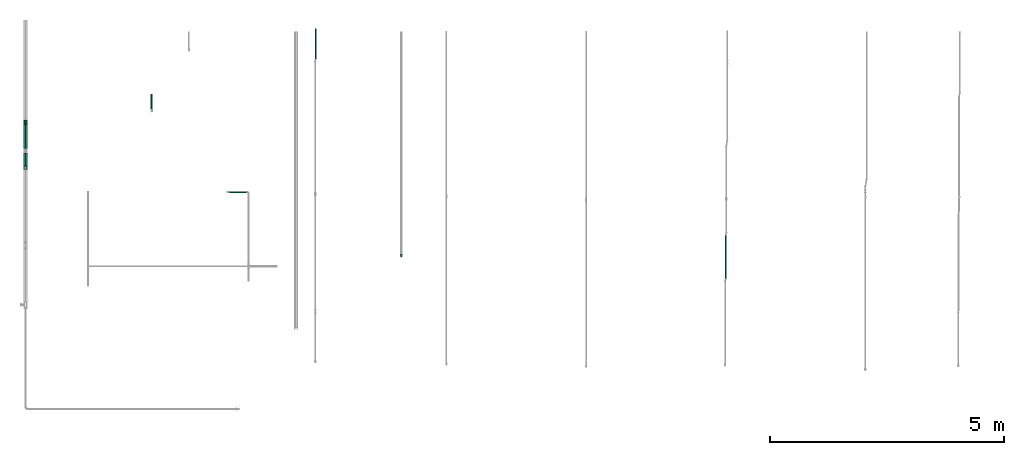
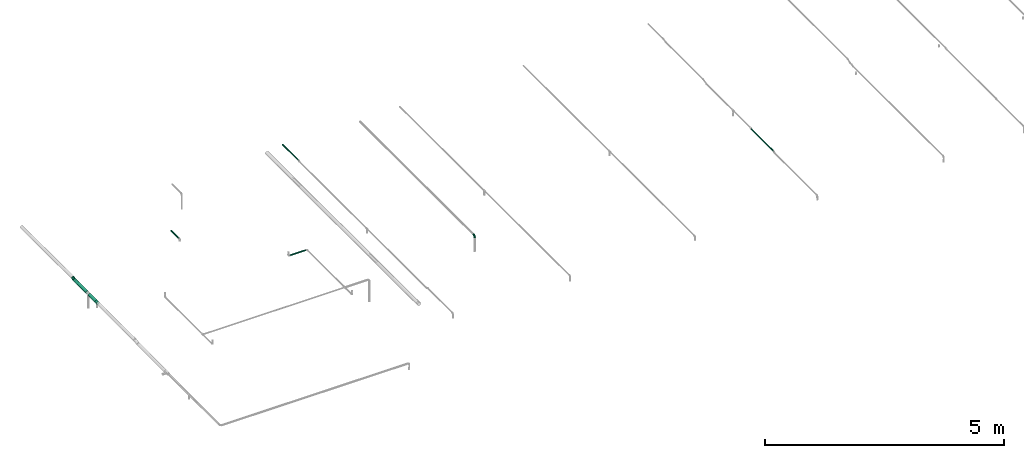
# One storey, part 3 of 32: 7 flow segments, 4 flow fittings.
"""IFC2X3 building model written with IfcOpenShell, lengths in millimetres."""

import ifcopenshell
import ifcopenshell.guid

model = None  # the IFC model being written
_history = None  # IfcOwnerHistory: only IFC2X3 demands one
_inside = {}  # id of a spatial element -> (the spatial element, [elements in it])
_under = {}  # id of a project, library or spatial element -> (it, [spatial elements below it])
_declared = {}  # id of a project -> (the project, [libraries it declares])
_typed = {}  # id of a type object -> (the type object, [elements of that type])
_made_of = {}  # id of a material, layer set ... -> (it, [elements and type objects made of it])


def new_model(schema):
    """Start an empty IFC model of exactly this schema.

    Asked for "IFC4X3", IfcOpenShell would pick the latest addendum, in which some entities
    have other attributes; the version numbers below select the first issue.
    IFC2X3 requires an IfcOwnerHistory on every rooted entity: one is made here for all.
    """
    global model, _history
    if schema == "IFC4X3":
        model = ifcopenshell.file(schema_version=(4, 3, 0, 0))
    else:
        model = ifcopenshell.file(schema=schema)
    _inside.clear()
    _under.clear()
    _declared.clear()
    _typed.clear()
    _made_of.clear()
    _history = None
    if model.schema == "IFC2X3":
        org = make("IfcOrganization", Name="unknown")
        user = make(
            "IfcPersonAndOrganization",
            ThePerson=make("IfcPerson", FamilyName="unknown"),
            TheOrganization=org,
        )
        app = make(
            "IfcApplication",
            ApplicationDeveloper=org,
            Version="unknown",
            ApplicationFullName="unknown",
            ApplicationIdentifier="unknown",
        )
        _history = make(
            "IfcOwnerHistory",
            OwningUser=user,
            OwningApplication=app,
            ChangeAction="ADDED",
            CreationDate=0,
        )
    return model


def make(cls, **values):
    """One entity of the class cls with the attributes given. An attribute that is None is left unset."""
    return model.create_entity(
        cls, **{name: value for name, value in values.items() if value is not None}
    )


def entity(cls, *values):
    """Any entity or typed value of the class cls, its attributes in the order of the schema. None: left unset."""
    e = model.create_entity(cls)
    for i, value in enumerate(values):
        if value is not None:
            e[i] = value
    return e


def rooted(cls, **values):
    """An entity with a GlobalId (a new one), such as an element, a storey or a relation."""
    return make(cls, GlobalId=ifcopenshell.guid.new(), OwnerHistory=_history, **values)


def si_unit(unit_type, name, prefix=None):
    """IfcSIUnit, for example si_unit("LENGTHUNIT", "METRE", prefix="MILLI")."""
    return make("IfcSIUnit", UnitType=unit_type, Prefix=prefix, Name=name)


def converted_unit(unit_type, name, factor, base, dimensions=None, offset=None):
    """IfcConversionBasedUnit, such as the inch: factor (a typed value) times the base unit."""
    return make(
        "IfcConversionBasedUnit"
        if offset is None
        else "IfcConversionBasedUnitWithOffset",
        ConversionOffset=offset,
        Dimensions=None
        if dimensions is None
        else entity("IfcDimensionalExponents", *dimensions),
        UnitType=unit_type,
        Name=name,
        ConversionFactor=make(
            "IfcMeasureWithUnit", ValueComponent=factor, UnitComponent=base
        ),
    )


def derived_unit(unit_type, elements):
    """IfcDerivedUnit: a product of units, each with its exponent."""
    return make(
        "IfcDerivedUnit",
        Elements=[
            make("IfcDerivedUnitElement", Unit=unit, Exponent=power)
            for unit, power in elements
        ],
        UnitType=unit_type,
    )


def assignment(units):
    """IfcUnitAssignment: the units of a project."""
    return None if units is None else make("IfcUnitAssignment", Units=units)


def point(xyz):
    """IfcCartesianPoint."""
    return None if xyz is None else make("IfcCartesianPoint", Coordinates=xyz)


def direction(xyz):
    """IfcDirection."""
    return None if xyz is None else make("IfcDirection", DirectionRatios=xyz)


def frame(location, z_axis=None, x_axis=None):
    """IfcAxis2Placement3D, a coordinate frame: its origin and axes. An axis left out is left unset."""
    return make(
        "IfcAxis2Placement3D",
        Location=point(location),
        Axis=direction(z_axis),
        RefDirection=direction(x_axis),
    )


def frame_2d(location, x_axis=None):
    """IfcAxis2Placement2D, a coordinate frame in the plane: its origin and x axis."""
    return make(
        "IfcAxis2Placement2D", Location=point(location), RefDirection=direction(x_axis)
    )


def origin_with_axes():
    """The frame at (0, 0, 0) with the z axis (0, 0, 1) and the x axis (1, 0, 0) written out."""
    return frame((0.0, 0.0, 0.0), z_axis=(0.0, 0.0, 1.0), x_axis=(1.0, 0.0, 0.0))


def origin_2d_with_axis():
    """The frame at (0, 0) in the plane with the x axis (1, 0) written out."""
    return frame_2d((0.0, 0.0), x_axis=(1.0, 0.0))


def place(relative_to, where):
    """IfcLocalPlacement: puts the frame where relative to a parent placement (None: the world)."""
    return make(
        "IfcLocalPlacement", PlacementRelTo=relative_to, RelativePlacement=where
    )


def context(
    kind, dimensions, precision=None, world=None, true_north=None, identifier=None
):
    """IfcGeometricRepresentationContext, for example the 3D "Model" context."""
    return make(
        "IfcGeometricRepresentationContext",
        ContextIdentifier=identifier,
        ContextType=kind,
        CoordinateSpaceDimension=dimensions,
        Precision=precision,
        WorldCoordinateSystem=world,
        TrueNorth=true_north,
    )


def subcontext(parent, identifier, kind, view, scale=None):
    """IfcGeometricRepresentationSubContext, for example "Body" below "Model"."""
    return make(
        "IfcGeometricRepresentationSubContext",
        ContextIdentifier=identifier,
        ContextType=kind,
        ParentContext=parent,
        TargetScale=scale,
        TargetView=view,
    )


def project(units=None, contexts=None):
    """IfcProject with its units and contexts."""
    return rooted(
        "IfcProject",
        Name="project",
        RepresentationContexts=contexts,
        UnitsInContext=assignment(units),
    )


def spatial(cls, under=None, at=None, **own):
    """A site, building, storey or space (cls), placed at a placement, below another one or the project."""
    s = rooted(cls, ObjectPlacement=at, **own)
    if under is not None:
        _under.setdefault(under.id(), (under, []))[1].append(s)
    return s


def profile(cls, at=None, kind="AREA", **sizes):
    """A parametric profile (cls). Its sizes go by their IFC names, for example OverallWidth=200.0."""
    return make(cls, ProfileType=kind, Position=at, **sizes)


def hollow_circle(**sizes):
    """IfcCircleHollowProfileDef."""
    return profile("IfcCircleHollowProfileDef", **sizes)


def extrude(swept, where, along, depth):
    """IfcExtrudedAreaSolid: the profile swept, set in the frame where, extruded along a direction by depth."""
    return make(
        "IfcExtrudedAreaSolid",
        SweptArea=swept,
        Position=where,
        ExtrudedDirection=direction(along),
        Depth=depth,
    )


def faces_of(points, faces, orient=None, outer=None):
    """IfcFace entities. A face is a list of loops; a loop is a list of indices into points, from 0.

    orient and outer hold one flag for each loop. By default every Orientation is true, the
    first loop of a face is its IfcFaceOuterBound and the others are IfcFaceBound.
    """
    made = []
    for i, loops in enumerate(faces):
        bounds = []
        for j, loop in enumerate(loops):
            is_outer = j == 0 if outer is None else outer[i][j]
            bounds.append(
                make(
                    "IfcFaceOuterBound" if is_outer else "IfcFaceBound",
                    Bound=make("IfcPolyLoop", Polygon=[points[k] for k in loop]),
                    Orientation=True if orient is None else orient[i][j],
                )
            )
        made.append(make("IfcFace", Bounds=bounds))
    return made


def open_shell(faces, orient=None, outer=None):
    """The faces of one IfcOpenShell. surface_model builds it on its shared points."""
    return ("IfcOpenShell", faces, orient, outer)


def surface_model(cls, points, shells):
    """IfcFaceBasedSurfaceModel or IfcShellBasedSurfaceModel (cls): surfaces that need not close."""
    shared = [point(p) for p in points]
    made = [make(c, CfsFaces=faces_of(shared, fs, o, b)) for c, fs, o, b in shells]
    if cls == "IfcFaceBasedSurfaceModel":
        return make(cls, FbsmFaces=made)
    return make(cls, SbsmBoundary=made)


def shape(context_of_items, identifier, shape_type, items):
    """IfcShapeRepresentation: the items that make up one representation, for example the "Body"."""
    return make(
        "IfcShapeRepresentation",
        ContextOfItems=context_of_items,
        RepresentationIdentifier=identifier,
        RepresentationType=shape_type,
        Items=items,
    )


def source(mapping_origin, context_of_items, identifier, shape_type, items):
    """IfcRepresentationMap: a shape defined once, which mapped items show again and again."""
    return make(
        "IfcRepresentationMap",
        MappingOrigin=mapping_origin,
        MappedRepresentation=shape(context_of_items, identifier, shape_type, items),
    )


def transform(
    local_origin,
    x_axis=None,
    y_axis=None,
    z_axis=None,
    scale=None,
    scale2=None,
    scale3=None,
    uniform=True,
):
    """IfcCartesianTransformationOperator3D, or its non-uniform kind. x_axis, y_axis, z_axis: its Axis1, 2, 3."""
    if uniform:
        return make(
            "IfcCartesianTransformationOperator3D",
            Axis1=direction(x_axis),
            Axis2=direction(y_axis),
            LocalOrigin=point(local_origin),
            Scale=scale,
            Axis3=direction(z_axis),
        )
    return make(
        "IfcCartesianTransformationOperator3DnonUniform",
        Axis1=direction(x_axis),
        Axis2=direction(y_axis),
        LocalOrigin=point(local_origin),
        Scale=scale,
        Axis3=direction(z_axis),
        Scale2=scale2,
        Scale3=scale3,
    )


def mapped(mapping_source, mapping_target):
    """IfcMappedItem: shows the shape of a source again, moved by a transform."""
    return make(
        "IfcMappedItem", MappingSource=mapping_source, MappingTarget=mapping_target
    )


def made_of(thing, what):
    """Note that an element or type object is made of a material, layer set ...; save() writes the relation."""
    if what is not None:
        _made_of.setdefault(what.id(), (what, []))[1].append(thing)
    return thing


def type_object(cls, material=None, **own):
    """A type object (cls), such as IfcWallType, which elements share."""
    return made_of(rooted(cls, **own), material)


def element(
    cls,
    number,
    at=None,
    inside=None,
    cuts=None,
    type_object=None,
    material=None,
    context=None,
    identifier="Body",
    shape_type=None,
    held_by="IfcProductDefinitionShape",
    body=None,
    shapes=None,
    **own,
):
    """One element of the class cls, such as IfcWall. Its Tag is "e" and its number.

    at: its placement. inside: the storey or other place that contains it. cuts: it is an
    opening in that element (IfcRelVoidsElement). A single representation is given by context,
    identifier, shape_type and body (its items); several are given by shapes. held_by: the class
    of the entity that holds the representations. save() writes the other relations.
    """
    e = rooted(cls, Tag="e%d" % number, ObjectPlacement=at, **own)
    if body is not None:
        shapes = [shape(context, identifier, shape_type, body)]
    if shapes is not None:
        e.Representation = make(held_by, Representations=shapes)
    if inside is not None:
        _inside.setdefault(inside.id(), (inside, []))[1].append(e)
    if cuts is not None:
        rooted(
            "IfcRelVoidsElement", RelatingBuildingElement=cuts, RelatedOpeningElement=e
        )
    if type_object is not None:
        _typed.setdefault(type_object.id(), (type_object, []))[1].append(e)
    return made_of(e, material)


def aggregate(whole, parts):
    """IfcRelAggregates: a whole, such as a stair, and the parts it consists of."""
    return rooted("IfcRelAggregates", RelatingObject=whole, RelatedObjects=parts)


def save(model, path):
    """Write the relations noted so far, then the file.

    IfcRelAggregates (storeys below a building ...), IfcRelContainedInSpatialStructure (elements
    in a storey), IfcRelDefinesByType, IfcRelAssociatesMaterial and IfcRelDeclares: one each for
    every whole, place, type object, material and project.
    """
    for whole, parts in _under.values():
        aggregate(whole, parts)
    for where, things in _inside.values():
        rooted(
            "IfcRelContainedInSpatialStructure",
            RelatedElements=things,
            RelatingStructure=where,
        )
    for kind, things in _typed.values():
        rooted("IfcRelDefinesByType", RelatedObjects=things, RelatingType=kind)
    for what, things in _made_of.values():
        rooted("IfcRelAssociatesMaterial", RelatedObjects=things, RelatingMaterial=what)
    for by, libraries in _declared.values():
        rooted("IfcRelDeclares", RelatingContext=by, RelatedDefinitions=libraries)
    model.write(path)


model = new_model("IFC2X3")

# Units and contexts
model_context = context("Model", 3, precision=0.01, world=frame((0.0, 4.29681676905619e-09, 0.0)), true_north=direction((4.01073788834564e-13, 1.0)))
plan_context = context("Plan", 3, precision=0.01, world=frame((0.0, 4.29681676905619e-09, 0.0)), true_north=direction((4.01073788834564e-13, 1.0)))
body_context = subcontext(model_context, "Body", "Model", "MODEL_VIEW")
ifc_project = project(units=[converted_unit("PLANEANGLEUNIT", "DEGREE", entity("IfcPositiveLengthMeasure", 0.0174532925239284), si_unit("PLANEANGLEUNIT", "RADIAN"), dimensions=[0, 0, 0, 0, 0, 0, 0]), si_unit("AREAUNIT", "SQUARE_METRE"), si_unit("LENGTHUNIT", "METRE", prefix="MILLI"), si_unit("MASSUNIT", "GRAM", prefix="KILO"), si_unit("POWERUNIT", "WATT"), si_unit("PRESSUREUNIT", "PASCAL", prefix="KILO"), si_unit("FORCEUNIT", "NEWTON", prefix="KILO"), si_unit("ELECTRICVOLTAGEUNIT", "VOLT"), si_unit("ELECTRICCURRENTUNIT", "AMPERE"), si_unit("THERMODYNAMICTEMPERATUREUNIT", "DEGREE_CELSIUS"), si_unit("TIMEUNIT", "SECOND"), si_unit("VOLUMEUNIT", "CUBIC_METRE"), derived_unit("LINEARVELOCITYUNIT", [(si_unit("LENGTHUNIT", "METRE"), 1), (si_unit("TIMEUNIT", "SECOND"), -1)]), derived_unit("VOLUMETRICFLOWRATEUNIT", [(si_unit("VOLUMEUNIT", "CUBIC_METRE"), 1), (si_unit("TIMEUNIT", "SECOND"), -1)]), derived_unit("THERMALTRANSMITTANCEUNIT", [(si_unit("POWERUNIT", "WATT"), 1), (si_unit("THERMODYNAMICTEMPERATUREUNIT", "KELVIN"), -1), (si_unit("AREAUNIT", "SQUARE_METRE"), -1)]), derived_unit("SOUNDPRESSUREUNIT", [(si_unit("PRESSUREUNIT", "PASCAL"), 1)])], contexts=[model_context, plan_context])

# Site, building, storey
site_placement = place(None, frame((0.0, -4.29681676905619e-09, 0.0), z_axis=(0.0, 0.0, 1.0), x_axis=(1.0, 0.0, 0.0)))
site = spatial("IfcSite", under=ifc_project, at=site_placement, CompositionType="ELEMENT")
building_placement = place(site_placement, frame((0.0, 4.29681676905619e-09, 0.0), z_axis=(0.0, 0.0, 1.0), x_axis=(1.0, 0.0, 0.0)))
building = spatial("IfcBuilding", under=site, at=building_placement, Name="mc-building", CompositionType="ELEMENT")
storey_placement = place(building_placement, frame((0.0, 0.0, 205200.0), z_axis=(0.0, 0.0, 1.0), x_axis=(1.0, 0.0, 0.0)))
storey = spatial("IfcBuildingStorey", under=building, at=storey_placement, Name="Nivå D + 1,2 m", CompositionType="ELEMENT", Elevation=205200.0)

# Flow fittings
pipe_fitting_type_1 = type_object("IfcPipeFittingType", Name="magi_pipe_fe_tee_centric_90_001", PredefinedType="JUNCTION")
shared_shape_1 = source(origin_with_axes(), body_context, "Body", "SurfaceModel", [
    surface_model("IfcShellBasedSurfaceModel", [(-33.8, 9.86101, -36.80177), (-33.8, 0.0, -38.1), (-33.8, 36.80177, -9.86101), (-33.8, 19.05, -32.99557), (-33.8, 32.99557, -19.05), (-33.8, 26.94077, -26.94077), (-33.8, -38.1, 0.0), (-33.8, -19.05, -32.99557), (-33.8, -26.94077, -26.94077), (-33.8, -9.86101, -36.80177), (-33.8, -32.99557, -19.05), (-33.8, -36.80177, -9.86101), (-33.8, 38.1, 0.0), (-33.8, 32.99557, 19.05), (-33.8, 36.80177, 9.86101), (-33.8, -36.80177, 9.86101), (-33.8, 19.05, 32.99557), (-33.8, 26.94077, 26.94077), (-33.8, 9.86101, 36.80177), (-33.8, 0.0, 38.1), (-33.8, -26.94077, 26.94077), (-33.8, -32.99557, 19.05), (-33.8, -9.86101, 36.80177), (-33.8, -19.05, 32.99557), (33.8, 0.0, -38.1), (33.8, 9.86101, -36.80177), (33.8, 19.05, -32.99557), (33.8, 26.94077, -26.94077), (33.8, 32.99557, -19.05), (33.8, 36.80177, -9.86101), (33.8, -38.1, 0.0), (33.8, -9.86101, -36.80177), (33.8, -26.94077, -26.94077), (33.8, -19.05, -32.99557), (33.8, -32.99557, -19.05), (33.8, -36.80177, -9.86101), (33.8, 36.80177, 9.86101), (33.8, 32.99557, 19.05), (33.8, 19.05, 32.99557), (33.8, 0.0, 38.1), (33.8, 26.94077, 26.94077), (33.8, 9.86101, 36.80177), (33.8, -26.94077, 26.94077), (33.8, -32.99557, 19.05), (33.8, -36.80177, 9.86101), (33.8, -19.05, 32.99557), (33.8, -9.86101, 36.80177), (33.8, 38.1, 0.0), (33.8, -37.45089, 4.9305), (15.86072, -37.65053, 5.83504), (16.9, -38.1, 0.0), (12.92726, -36.51183, 10.88559), (2.96752, -34.27545, 16.63742), (33.8, -34.89867, 14.4555), (8.48894, -35.18611, 14.61328), (-8.4904, -35.18646, 14.61243), (-33.8, -34.89867, 14.4555), (-15.8612, -37.65073, 5.83372), (-33.8, -37.45089, 4.9305), (-16.9, -38.1, 0.0), (-12.9317, -36.51341, 10.88031), (-2.97221, -34.27585, 16.63658), (-33.8, -37.45089, -4.9305), (-15.8612, -37.65073, -5.83372), (15.86072, -37.65053, -5.83504), (33.8, -37.45089, -4.9305), (-12.9317, -36.51341, -10.88031), (-33.8, -34.89867, -14.4555), (-8.4904, -35.18646, -14.61243), (2.96752, -34.27545, -16.63742), (8.48894, -35.18611, -14.61328), (33.8, -34.89867, -14.4555), (12.92726, -36.51183, -10.88559), (-2.97221, -34.27585, -16.63658), (4.37404, -57.15, -16.32415), (-16.9, -57.15, 0.0), (0.0, -57.15, -16.9), (14.63583, -57.15, -8.45), (8.45, -57.15, -14.63583), (16.32415, -57.15, -4.37404), (11.9501, -57.15, -11.9501), (-11.9501, -57.15, -11.9501), (-8.45, -57.15, -14.63583), (-4.37404, -57.15, -16.32415), (-14.63583, -57.15, -8.45), (-16.32415, -57.15, -4.37404), (16.9, -57.15, 0.0), (8.45, -57.15, 14.63583), (16.32415, -57.15, 4.37404), (14.63583, -57.15, 8.45), (-8.45, -57.15, 14.63583), (11.9501, -57.15, 11.9501), (4.37404, -57.15, 16.32415), (-16.32415, -57.15, 4.37404), (-11.9501, -57.15, 11.9501), (-14.63583, -57.15, 8.45), (0.0, -57.15, 16.9), (-4.37404, -57.15, 16.32415), (-16.3806, -37.87537, 2.91686), (-5.7313, -34.73116, 15.62451), (-0.00235, -34.27565, 16.637), (5.72823, -34.73078, 15.62535), (16.38036, -37.87526, 2.91752), (16.38036, -37.87526, -2.91752), (5.72823, -34.73078, -15.62535), (-0.00235, -34.27565, -16.637), (-5.7313, -34.73116, -15.62451), (-16.3806, -37.87537, -2.91686)], [open_shell([[[0, 1, 2]], [[3, 0, 2]], [[2, 4, 5]], [[3, 2, 5]], [[6, 2, 1]], [[7, 8, 9]], [[8, 1, 9]], [[10, 11, 8]], [[6, 8, 11]], [[8, 6, 1]], [[6, 12, 2]], [[13, 14, 12]], [[15, 13, 6]], [[16, 13, 15]], [[17, 13, 16]], [[18, 16, 19]], [[20, 19, 21]], [[16, 15, 21]], [[22, 19, 23]], [[20, 23, 19]], [[21, 19, 16]], [[12, 6, 13]], [[24, 25, 26]], [[24, 26, 27]], [[27, 28, 29]], [[24, 27, 30]], [[30, 27, 29]], [[31, 32, 33]], [[31, 24, 32]], [[34, 30, 35]], [[30, 34, 32]], [[24, 30, 32]], [[29, 36, 30]], [[36, 37, 30]], [[30, 37, 38]], [[38, 39, 30]], [[38, 37, 40]], [[39, 38, 41]], [[30, 42, 43]], [[44, 30, 43]], [[45, 39, 46]], [[45, 42, 30]], [[30, 39, 45]], [[36, 29, 47]], [[48, 44, 49]], [[50, 30, 48]], [[44, 51, 49]], [[43, 42, 52]], [[50, 48, 49]], [[44, 53, 51]], [[52, 54, 43]], [[42, 20, 52]], [[54, 53, 43]], [[55, 21, 56]], [[57, 58, 59]], [[6, 59, 58]], [[57, 60, 15]], [[55, 61, 21]], [[51, 53, 54]], [[15, 60, 56]], [[21, 61, 20]], [[56, 60, 55]], [[61, 52, 20]], [[57, 15, 58]], [[42, 23, 20]], [[19, 46, 39]], [[22, 45, 46]], [[18, 39, 41]], [[37, 36, 14]], [[17, 38, 40]], [[13, 40, 37]], [[41, 38, 16]], [[12, 36, 47]], [[23, 45, 22]], [[22, 46, 19]], [[18, 19, 39]], [[41, 16, 18]], [[16, 38, 17]], [[13, 17, 40]], [[14, 13, 37]], [[36, 12, 14]], [[45, 23, 42]], [[12, 47, 29]], [[29, 28, 2]], [[59, 62, 63]], [[27, 4, 28]], [[9, 24, 31]], [[0, 26, 25]], [[64, 35, 65]], [[24, 1, 25]], [[31, 33, 7]], [[27, 26, 5]], [[66, 67, 68]], [[4, 2, 28]], [[12, 29, 2]], [[27, 5, 4]], [[3, 26, 0]], [[26, 3, 5]], [[0, 25, 1]], [[9, 1, 24]], [[31, 7, 9]], [[33, 8, 7]], [[32, 34, 69]], [[70, 34, 71]], [[70, 69, 34]], [[35, 72, 71]], [[32, 69, 8]], [[30, 50, 65]], [[64, 72, 35]], [[64, 65, 50]], [[72, 70, 71]], [[73, 68, 10]], [[10, 8, 73]], [[68, 67, 10]], [[73, 8, 69]], [[66, 63, 11]], [[63, 62, 11]], [[62, 59, 6]], [[11, 67, 66]], [[32, 8, 33]], [[74, 75, 76]], [[77, 74, 78]], [[77, 79, 74]], [[77, 78, 80]], [[75, 74, 79]], [[76, 81, 82]], [[82, 83, 76]], [[84, 75, 85]], [[81, 76, 84]], [[75, 84, 76]], [[79, 86, 75]], [[87, 86, 88]], [[87, 88, 89]], [[90, 75, 87]], [[87, 89, 91]], [[90, 87, 92]], [[93, 94, 95]], [[94, 93, 90]], [[90, 96, 97]], [[93, 75, 90]], [[92, 96, 90]], [[87, 75, 86]], [[93, 98, 75]], [[60, 95, 94]], [[93, 95, 57]], [[94, 90, 55]], [[98, 59, 75]], [[57, 95, 60]], [[97, 61, 99]], [[55, 60, 94]], [[96, 52, 100]], [[87, 101, 92]], [[99, 90, 97]], [[99, 55, 90]], [[93, 57, 98]], [[92, 52, 96]], [[49, 89, 88]], [[102, 86, 50]], [[102, 49, 88]], [[91, 89, 51]], [[96, 61, 97]], [[101, 52, 92]], [[87, 54, 101]], [[87, 91, 54]], [[54, 91, 51]], [[51, 89, 49]], [[86, 102, 88]], [[100, 61, 96]], [[79, 103, 86]], [[72, 77, 80]], [[79, 77, 64]], [[80, 78, 70]], [[103, 50, 86]], [[64, 77, 72]], [[74, 69, 104]], [[70, 72, 80]], [[76, 73, 105]], [[82, 106, 83]], [[107, 75, 59]], [[104, 78, 74]], [[104, 70, 78]], [[68, 82, 81]], [[79, 64, 103]], [[63, 84, 85]], [[107, 63, 85]], [[84, 66, 81]], [[76, 69, 74]], [[83, 106, 73]], [[73, 76, 83]], [[68, 106, 82]], [[68, 81, 66]], [[66, 84, 63]], [[75, 107, 85]], [[105, 69, 76]]])]),
])
flow_fitting_1_placement = place(storey_placement, frame((323497.5, 464582.26745, 4367.43145999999), z_axis=(1.0, 0.0, 0.0), x_axis=(0.0, 1.0, 0.0)))
element("IfcFlowFitting", 1, at=flow_fitting_1_placement, inside=storey, type_object=pipe_fitting_type_1, Name="magi_pipe_fe_tee_centric_90_001", context=body_context, shape_type="MappedRepresentation", body=[
    mapped(shared_shape_1, transform((0.0, 0.0, 0.0), scale=1.0)),
])
pipe_fitting_type_2 = type_object("IfcPipeFittingType", Name="magi_pipe_fe_elbow_short_001", PredefinedType="BEND")
shared_shape_2 = source(origin_with_axes(), body_context, "Body", "SurfaceModel", [
    surface_model("IfcShellBasedSurfaceModel", [(-48.4, 6.26342, -23.37541), (-48.4, 0.0, -24.2), (-48.4, 17.11198, -17.11198), (-48.4, 12.1, -20.95781), (-48.4, 23.37541, -6.26342), (-48.4, 20.95781, -12.1), (-48.4, -12.1, -20.95781), (-48.4, -17.11198, -17.11198), (-48.4, -20.95781, -12.1), (-48.4, -6.26342, -23.37541), (-48.4, -23.37541, -6.26342), (-48.4, -24.2, 0.0), (-48.4, -23.37541, 6.26342), (-48.4, 23.37541, 6.26342), (-48.4, 6.26342, 23.37541), (-48.4, 20.95781, 12.1), (-48.4, 17.11198, 17.11198), (-48.4, 12.1, 20.95781), (-48.4, -12.1, 20.95781), (-48.4, -20.95781, 12.1), (-48.4, -17.11198, 17.11198), (-48.4, -6.26342, 23.37541), (-48.4, 0.0, 24.2), (-48.4, 24.2, 0.0), (-17.11198, 48.4, -17.11198), (0.0, 48.4, -24.2), (-6.26342, 48.4, -23.37541), (-12.1, 48.4, -20.95781), (-20.95781, 48.4, -12.1), (-23.37541, 48.4, -6.26342), (12.1, 48.4, -20.95781), (20.95781, 48.4, -12.1), (17.11198, 48.4, -17.11198), (6.26342, 48.4, -23.37541), (23.37541, 48.4, -6.26342), (23.37541, 48.4, 6.26342), (24.2, 48.4, 0.0), (-23.37541, 48.4, 6.26342), (-6.26342, 48.4, 23.37541), (-17.11198, 48.4, 17.11198), (-20.95781, 48.4, 12.1), (-12.1, 48.4, 20.95781), (12.1, 48.4, 20.95781), (17.11198, 48.4, 17.11198), (20.95781, 48.4, 12.1), (0.0, 48.4, 24.2), (6.26342, 48.4, 23.37541), (-24.2, 48.4, 0.0), (-35.50368, -18.80076, 13.58523), (-31.77913, -13.9618, 18.03279), (-34.50859, -21.43683, 0.0), (-21.39243, -15.41147, 12.21413), (-32.16301, -21.12203, 7.54749), (21.12203, 32.16301, 7.54749), (17.07617, 18.95745, 6.20374), (18.67365, 20.61718, 0.0), (-23.65565, 38.62451, 10.51816), (-20.21592, 37.67665, 15.89859), (-35.56981, -9.15108, 21.77256), (-36.96985, -3.20584, 23.78612), (-33.88786, 3.70953, 24.15875), (-8.84062, -10.8048, 0.0), (-18.95745, -17.07617, 6.20374), (-20.61718, -18.67365, 0.0), (-18.69715, -5.87343, 20.10488), (-24.09336, -0.21717, 23.45593), (-2.08262, -4.09091, 10.90396), (-0.40561, 0.49936, 14.45569), (-8.22634, -5.79523, 14.90978), (-37.83027, 20.17367, 15.88169), (-8.41063, 23.79825, 24.15658), (-17.92529, 17.92529, 23.61199), (-14.40991, 10.5752, 24.07534), (-41.86919, 14.6551, 19.71874), (-9.03342, 41.7434, 22.66763), (-3.31671, 36.19978, 24.14056), (-38.63654, 23.65174, 10.51655), (-38.25939, 25.77657, 5.32075), (-30.0475, 30.0475, 9.04616), (-37.30448, 9.49113, 22.86036), (-6.31688, 16.20853, 23.76192), (-12.02449, 4.43954, 22.59792), (-2.47225, 13.07459, 22.23951), (-4.32281, 4.32281, 19.78555), (13.9618, 31.77913, 18.03279), (15.41147, 21.39243, 12.21413), (18.80076, 35.50367, 13.58523), (-25.72741, 16.42033, 22.38358), (-26.59277, 10.36599, 23.76692), (3.20584, 36.96985, 23.78612), (9.15107, 35.56981, 21.77256), (5.87343, 18.69715, 20.10488), (21.43683, 34.50859, 0.0), (-23.74657, 5.93004, 24.18967), (-22.40302, 25.55556, 19.88516), (-33.3245, 16.42738, 20.3789), (-25.47357, 39.04012, 5.19167), (-30.32947, 31.74105, 4.25904), (11.04589, 19.60124, 16.55181), (-27.44219, 36.3, 0.0), (-10.46605, 32.79159, 23.04712), (-13.80953, 25.05111, 23.26361), (-17.54489, 31.27863, 20.33941), (-19.27982, 23.42922, 22.01925), (-14.78447, 40.57947, 19.81913), (-19.60124, -11.04589, 16.55181), (-25.09785, 32.07921, 13.69695), (-25.5093, 27.02629, 17.14196), (-31.08127, 26.00324, 13.49448), (0.21717, 24.09336, 23.45593), (5.51075, 8.40547, 15.32867), (-11.48597, -10.80284, 11.35932), (1.43689, -3.14326, 6.54995), (7.34882, 4.31024, 8.4514), (7.50574, 2.51208, 3.62663), (12.46453, 10.09451, 5.71609), (12.1504, 12.55391, 10.15678), (-36.3, 27.44219, 0.0), (-6.52237, -9.62364, 7.02633), (2.93595, -2.93595, 0.0), (10.8048, 8.84062, 0.0), (-19.60124, -11.04589, -16.55181), (-31.77913, -13.9618, -18.03279), (-18.69715, -5.87343, -20.10488), (-21.39243, -15.41147, -12.21413), (-37.67665, 20.21591, -15.89859), (-40.57947, 14.78447, -19.81913), (-39.04012, 25.47357, -5.19167), (-32.16301, -21.12203, -7.54749), (-30.0475, 30.0475, -9.04616), (-38.62452, 23.65565, -10.51816), (-18.95745, -17.07617, -6.20374), (-23.42922, 19.27982, -22.01926), (-25.05111, 13.80953, -23.26361), (-31.27863, 17.54489, -20.33941), (-14.6551, 41.86919, -19.71874), (-20.17367, 37.83026, -15.88169), (9.15108, 35.56981, -21.77256), (5.87343, 18.69715, -20.10488), (0.21717, 24.09336, -23.45593), (-41.7434, 9.03342, -22.66763), (-35.50368, -18.80076, -13.58523), (-35.56981, -9.15108, -21.77256), (-16.42033, 25.72741, -22.38358), (-9.49113, 37.30447, -22.86036), (-10.36599, 26.59277, -23.76692), (-36.96985, -3.20584, -23.78612), (-23.79826, 8.41063, -24.15658), (-17.92529, 17.92529, -23.61199), (-10.5752, 14.40991, -24.07534), (-36.19978, 3.31671, -24.14056), (-25.77657, 38.25939, -5.32075), (-23.65174, 38.63654, -10.51655), (-32.79159, 10.46605, -23.04712), (-31.74105, 30.32946, -4.25904), (-5.93004, 23.74657, -24.18967), (-25.55556, 22.40302, -19.88516), (-16.42738, 33.3245, -20.3789), (3.20584, 36.96985, -23.78612), (-3.70953, 33.88785, -24.15875), (18.80076, 35.50367, -13.58523), (13.9618, 31.77913, -18.03279), (7.50574, 2.51208, -3.62663), (12.46453, 10.09451, -5.71609), (-16.20853, 6.31688, -23.76192), (-4.43954, 12.02449, -22.59792), (-13.07459, 2.47225, -22.23951), (1.43689, -3.14326, -6.54995), (-6.52237, -9.62364, -7.02632), (-2.08262, -4.09091, -10.90396), (15.41147, 21.39243, -12.21413), (21.12203, 32.16301, -7.54749), (17.07617, 18.95745, -6.20374), (-32.07921, 25.09785, -13.69695), (11.04589, 19.60124, -16.55181), (12.1504, 12.55391, -10.15678), (5.51075, 8.40547, -15.32867), (-27.02629, 25.5093, -17.14196), (-26.00324, 31.08127, -13.49448), (-24.09336, -0.21717, -23.45593), (-4.32281, 4.32281, -19.78555), (-8.22634, -5.79524, -14.90978), (-11.48597, -10.80284, -11.35931), (-0.40561, 0.49936, -14.45569), (7.34882, 4.31024, -8.4514)], [open_shell([[[0, 1, 2]], [[3, 0, 2]], [[4, 5, 2]], [[6, 2, 1]], [[4, 2, 6]], [[7, 8, 6]], [[1, 9, 6]], [[8, 10, 6]], [[6, 10, 4]], [[11, 12, 10]], [[13, 4, 10]], [[14, 13, 10]], [[15, 13, 16]], [[13, 14, 17]], [[16, 13, 17]], [[10, 18, 14]], [[19, 20, 12]], [[20, 10, 12]], [[21, 22, 18]], [[20, 18, 10]], [[18, 22, 14]], [[23, 4, 13]], [[24, 25, 26]], [[24, 26, 27]], [[24, 28, 29]], [[25, 24, 30]], [[30, 24, 29]], [[30, 31, 32]], [[30, 33, 25]], [[30, 34, 31]], [[29, 34, 30]], [[34, 35, 36]], [[34, 29, 37]], [[34, 37, 38]], [[39, 37, 40]], [[41, 38, 37]], [[41, 37, 39]], [[38, 42, 34]], [[35, 43, 44]], [[35, 34, 43]], [[42, 45, 46]], [[34, 42, 43]], [[38, 45, 42]], [[37, 29, 47]], [[20, 48, 49]], [[12, 11, 50]], [[51, 48, 52]], [[53, 54, 55]], [[48, 20, 19]], [[12, 52, 19]], [[40, 56, 57]], [[49, 18, 20]], [[49, 58, 18]], [[22, 59, 60]], [[61, 62, 63]], [[58, 64, 65]], [[66, 67, 68]], [[15, 16, 69]], [[70, 71, 72]], [[17, 73, 16]], [[21, 59, 22]], [[38, 74, 75]], [[22, 60, 14]], [[15, 69, 76]], [[16, 73, 69]], [[23, 13, 77]], [[13, 15, 76]], [[77, 76, 78]], [[14, 79, 17]], [[80, 81, 82]], [[68, 83, 64]], [[84, 43, 42]], [[85, 86, 84]], [[87, 79, 88]], [[18, 58, 21]], [[45, 89, 46]], [[53, 35, 44]], [[45, 38, 75]], [[84, 90, 91]], [[44, 86, 53]], [[92, 35, 53]], [[86, 44, 43]], [[90, 42, 46]], [[53, 55, 92]], [[88, 93, 72]], [[54, 53, 85]], [[87, 94, 95]], [[78, 96, 97]], [[98, 84, 91]], [[99, 96, 47]], [[79, 14, 60]], [[96, 78, 56]], [[62, 52, 63]], [[57, 39, 40]], [[100, 70, 75]], [[101, 102, 103]], [[12, 50, 52]], [[104, 41, 39]], [[74, 38, 41]], [[57, 102, 104]], [[105, 64, 49]], [[90, 84, 42]], [[40, 37, 56]], [[56, 106, 57]], [[102, 57, 107]], [[95, 107, 69]], [[76, 108, 78]], [[100, 101, 70]], [[89, 75, 109]], [[64, 58, 49]], [[63, 52, 50]], [[59, 58, 65]], [[105, 49, 51]], [[64, 83, 81]], [[89, 90, 46]], [[36, 35, 92]], [[109, 82, 91]], [[109, 91, 90]], [[91, 83, 110]], [[111, 68, 105]], [[66, 68, 111]], [[62, 51, 52]], [[66, 112, 113]], [[114, 115, 113]], [[98, 85, 84]], [[52, 48, 19]], [[49, 48, 51]], [[84, 86, 43]], [[53, 86, 85]], [[88, 79, 60]], [[73, 79, 95]], [[96, 56, 37]], [[78, 108, 106]], [[87, 103, 94]], [[100, 74, 104]], [[108, 69, 107]], [[78, 97, 77]], [[88, 72, 71]], [[109, 75, 70]], [[81, 72, 65]], [[70, 72, 80]], [[75, 89, 45]], [[90, 89, 109]], [[58, 59, 21]], [[60, 59, 65]], [[67, 83, 68]], [[110, 113, 116]], [[88, 60, 93]], [[87, 88, 71]], [[103, 87, 71]], [[79, 87, 95]], [[101, 103, 71]], [[94, 103, 102]], [[47, 96, 37]], [[96, 99, 97]], [[99, 117, 97]], [[97, 117, 77]], [[23, 77, 117]], [[13, 76, 77]], [[60, 65, 93]], [[65, 72, 93]], [[70, 101, 71]], [[102, 101, 100]], [[69, 108, 76]], [[106, 108, 107]], [[57, 106, 107]], [[78, 106, 56]], [[57, 104, 39]], [[100, 104, 102]], [[102, 107, 94]], [[95, 94, 107]], [[64, 81, 65]], [[82, 81, 83]], [[91, 82, 83]], [[80, 82, 109]], [[70, 80, 109]], [[81, 80, 72]], [[79, 73, 17]], [[69, 73, 95]], [[104, 74, 41]], [[75, 74, 100]], [[62, 61, 118]], [[111, 62, 118]], [[113, 115, 116]], [[119, 118, 61]], [[111, 105, 51]], [[113, 112, 114]], [[120, 55, 54]], [[68, 64, 105]], [[91, 110, 98]], [[116, 98, 110]], [[62, 111, 51]], [[66, 111, 118]], [[112, 66, 118]], [[67, 113, 110]], [[118, 119, 112]], [[114, 112, 119]], [[119, 120, 114]], [[115, 120, 54]], [[120, 115, 114]], [[116, 54, 85]], [[54, 116, 115]], [[116, 85, 98]], [[113, 67, 66]], [[83, 67, 110]], [[121, 122, 123]], [[122, 121, 124]], [[5, 125, 2]], [[2, 126, 3]], [[117, 127, 23]], [[50, 10, 128]], [[127, 129, 130]], [[128, 131, 63]], [[132, 133, 134]], [[24, 135, 136]], [[137, 138, 139]], [[3, 140, 0]], [[128, 8, 141]], [[142, 6, 9]], [[128, 63, 50]], [[5, 4, 130]], [[8, 7, 141]], [[143, 144, 145]], [[146, 9, 1]], [[147, 148, 149]], [[8, 128, 10]], [[124, 141, 122]], [[150, 1, 0]], [[151, 152, 129]], [[125, 134, 126]], [[153, 147, 150]], [[127, 154, 129]], [[145, 155, 149]], [[47, 29, 151]], [[143, 156, 157]], [[152, 29, 28]], [[25, 158, 159]], [[122, 7, 6]], [[24, 27, 135]], [[144, 27, 26]], [[32, 160, 161]], [[25, 33, 158]], [[120, 162, 163]], [[130, 125, 5]], [[24, 136, 28]], [[0, 140, 150]], [[30, 161, 137]], [[142, 122, 6]], [[25, 159, 26]], [[164, 165, 166]], [[167, 168, 169]], [[31, 160, 32]], [[161, 30, 32]], [[170, 160, 171]], [[131, 128, 124]], [[36, 92, 34]], [[34, 92, 171]], [[172, 171, 55]], [[34, 171, 31]], [[144, 26, 159]], [[130, 173, 125]], [[174, 175, 176]], [[136, 152, 28]], [[30, 137, 33]], [[122, 142, 123]], [[134, 125, 177]], [[157, 177, 136]], [[152, 178, 129]], [[153, 133, 147]], [[146, 150, 179]], [[146, 142, 9]], [[11, 10, 50]], [[179, 166, 123]], [[179, 123, 142]], [[123, 180, 181]], [[138, 137, 161]], [[55, 171, 92]], [[158, 137, 139]], [[174, 161, 170]], [[138, 180, 165]], [[180, 138, 176]], [[124, 121, 182]], [[176, 183, 180]], [[61, 131, 168]], [[169, 168, 182]], [[172, 170, 171]], [[122, 141, 7]], [[128, 141, 124]], [[171, 160, 31]], [[161, 160, 170]], [[145, 144, 159]], [[135, 144, 157]], [[127, 130, 4]], [[129, 178, 173]], [[143, 132, 156]], [[153, 140, 126]], [[178, 136, 177]], [[129, 154, 151]], [[145, 149, 148]], [[179, 150, 147]], [[165, 149, 139]], [[147, 149, 164]], [[150, 146, 1]], [[142, 146, 179]], [[137, 158, 33]], [[159, 158, 139]], [[174, 138, 161]], [[184, 169, 183]], [[145, 159, 155]], [[143, 145, 148]], [[132, 143, 148]], [[144, 143, 157]], [[133, 132, 148]], [[156, 132, 134]], [[23, 127, 4]], [[127, 117, 154]], [[117, 99, 154]], [[154, 99, 151]], [[47, 151, 99]], [[29, 152, 151]], [[159, 139, 155]], [[139, 149, 155]], [[147, 133, 148]], [[134, 133, 153]], [[136, 178, 152]], [[173, 178, 177]], [[125, 173, 177]], [[129, 173, 130]], [[125, 126, 2]], [[153, 126, 134]], [[134, 177, 156]], [[157, 156, 177]], [[138, 165, 139]], [[166, 165, 180]], [[123, 166, 180]], [[164, 166, 179]], [[147, 164, 179]], [[165, 164, 149]], [[144, 135, 27]], [[136, 135, 157]], [[126, 140, 3]], [[150, 140, 153]], [[182, 131, 124]], [[168, 119, 61]], [[119, 167, 162]], [[63, 131, 61]], [[172, 163, 175]], [[172, 55, 120]], [[123, 181, 121]], [[182, 121, 181]], [[175, 174, 170]], [[176, 138, 174]], [[169, 182, 181]], [[131, 182, 168]], [[183, 169, 181]], [[167, 169, 184]], [[162, 167, 184]], [[119, 168, 167]], [[163, 162, 184]], [[120, 119, 162]], [[175, 163, 184]], [[120, 163, 172]], [[176, 175, 184]], [[172, 175, 170]], [[180, 183, 181]], [[184, 183, 176]]])]),
])
flow_fitting_2_placement = place(storey_placement, frame((331536.30913, 462693.6706, 4407.43145999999), z_axis=(-1.0, 0.0, 0.0), x_axis=(0.0, 0.0, 1.0)))
element("IfcFlowFitting", 2, at=flow_fitting_2_placement, inside=storey, type_object=pipe_fitting_type_2, Name="magi_pipe_fe_elbow_short_001", context=body_context, shape_type="MappedRepresentation", body=[
    mapped(shared_shape_2, transform((0.0, 0.0, 0.0), scale=1.0)),
])
shared_shape_3 = source(origin_with_axes(), body_context, "Body", "SurfaceModel", [
    surface_model("IfcShellBasedSurfaceModel", [(-10.03192, 19.05, -32.99557), (-10.03192, 9.86101, -36.80177), (-10.03192, 0.0, -38.1), (-10.03192, 26.94077, -26.94077), (-10.03192, 36.80177, -9.86101), (-10.03192, 32.99557, -19.05), (-10.03192, -36.80177, 9.86101), (-10.03192, -9.86101, -36.80177), (-10.03192, -26.94077, -26.94077), (-10.03192, -32.99557, -19.05), (-10.03192, -19.05, -32.99557), (-10.03192, -36.80177, -9.86101), (-10.03192, -38.1, 0.0), (-10.03192, 36.80177, 9.86101), (-10.03192, 26.94077, 26.94077), (-10.03192, 32.99557, 19.05), (-10.03192, 9.86101, 36.80177), (-10.03192, 19.05, 32.99557), (-10.03192, -19.05, 32.99557), (-10.03192, 0.0, 38.1), (-10.03192, -32.99557, 19.05), (-10.03192, -26.94077, 26.94077), (-10.03192, -9.86101, 36.80177), (-10.03192, 38.1, 0.0), (9.69009, 2.59645, -38.1), (7.13788, 12.12145, -36.80177), (4.75959, 20.99734, -32.99557), (1.15021, 34.46772, -19.05), (12.24231, -6.92855, -36.80177), (2.71731, 28.61924, -26.94077), (19.21509, -32.95133, 9.86101), (19.5511, -34.20532, 0.0), (14.62059, -15.80443, -32.99557), (18.22997, -29.27482, -19.05), (16.66288, -23.42633, -26.94077), (19.21509, -32.95133, -9.86101), (0.16509, 38.14424, -9.86101), (0.16509, 38.14424, 9.86101), (2.71731, 28.61924, 26.94077), (1.15021, 34.46772, 19.05), (4.75959, 20.99734, 32.99557), (7.13788, 12.12145, 36.80177), (18.22997, -29.27482, 19.05), (14.62059, -15.80443, 32.99557), (16.66288, -23.42633, 26.94077), (9.69009, 2.59645, 38.1), (12.24231, -6.92855, 36.80177), (-0.17091, 39.39823, 0.0), (-5.05887, 38.42595, 0.0), (4.88722, -37.12215, 0.0)], [open_shell([[[0, 1, 2]], [[3, 0, 2]], [[4, 5, 3]], [[6, 3, 2]], [[6, 2, 7]], [[8, 9, 10]], [[10, 9, 6]], [[11, 12, 9]], [[9, 12, 6]], [[10, 6, 7]], [[3, 6, 4]], [[13, 4, 14]], [[15, 13, 14]], [[16, 17, 14]], [[18, 14, 4]], [[16, 14, 19]], [[20, 21, 6]], [[6, 21, 4]], [[22, 19, 18]], [[18, 4, 21]], [[14, 18, 19]], [[23, 4, 13]], [[24, 25, 26]], [[24, 26, 27]], [[24, 27, 28]], [[27, 26, 29]], [[30, 31, 27]], [[32, 33, 34]], [[31, 32, 28]], [[33, 31, 35]], [[31, 33, 32]], [[28, 27, 31]], [[27, 36, 37]], [[27, 37, 38]], [[38, 37, 39]], [[38, 40, 41]], [[38, 30, 27]], [[30, 38, 41]], [[42, 43, 44]], [[43, 42, 30]], [[43, 45, 46]], [[45, 43, 30]], [[30, 41, 45]], [[36, 47, 37]], [[20, 44, 21]], [[43, 18, 21]], [[46, 22, 18]], [[45, 19, 22]], [[16, 19, 41]], [[42, 20, 6]], [[15, 14, 39]], [[17, 38, 14]], [[48, 13, 37]], [[48, 23, 13]], [[37, 13, 15]], [[40, 17, 16]], [[6, 12, 49]], [[43, 46, 18]], [[21, 44, 43]], [[46, 45, 22]], [[42, 6, 30]], [[20, 42, 44]], [[49, 31, 30]], [[39, 37, 15]], [[47, 48, 37]], [[40, 16, 41]], [[17, 40, 38]], [[39, 14, 38]], [[41, 19, 45]], [[6, 49, 30]], [[2, 28, 7]], [[1, 24, 2]], [[5, 27, 3]], [[3, 26, 0]], [[1, 0, 26]], [[5, 4, 36]], [[49, 12, 11]], [[35, 49, 11]], [[34, 8, 10]], [[11, 9, 35]], [[8, 33, 9]], [[32, 10, 7]], [[4, 23, 48]], [[48, 47, 36]], [[36, 27, 5]], [[26, 3, 29]], [[25, 1, 26]], [[3, 27, 29]], [[25, 24, 1]], [[32, 7, 28]], [[34, 10, 32]], [[9, 33, 35]], [[35, 31, 49]], [[33, 8, 34]], [[24, 28, 2]], [[4, 48, 36]]])]),
])
for number, where, z_axis, x_axis, name in (
    (3, (323497.5, 465528.6507, 4367.43145999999), (1.0, 0.0, 0.0), (0.0, 1.0, 0.0), "magi_pipe_fe_elbow_short_001"),
    (4, (323497.5, 465584.63146, 4382.43145999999), (1.0, 0.0, 0.0), (0.0, -1.0, 0.0), "magi_pipe_fe_elbow_short_001"),
):
    element("IfcFlowFitting", number, at=place(storey_placement, frame(where, z_axis=z_axis, x_axis=x_axis)), inside=storey, type_object=pipe_fitting_type_2, Name=name, context=body_context, shape_type="MappedRepresentation", body=[
        mapped(shared_shape_3, transform((0.0, 0.0, 0.0), scale=1.0)),
    ])

# Flow segments
pipe_segment_type = type_object("IfcPipeSegmentType", Name="Stålrør normaltykke", PredefinedType="RIGIDSEGMENT")
shared_shape_4 = source(origin_with_axes(), body_context, "Body", "SweptSolid", [
    extrude(hollow_circle(Radius=16.9, WallThickness=2.0, at=origin_2d_with_axis()), frame((0.0, 0.0, 0.0), z_axis=(1.0, 0.0, 0.0), x_axis=(0.0, 1.0, 0.0)), (0.0, 0.0, 1.0), 922.7),
])
flow_segment_1_placement = place(storey_placement, frame((338482.5, 463135.67007, 4424.13733999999), z_axis=(0.0, 0.0, 1.0), x_axis=(0.0, -1.0, 0.0)))
element("IfcFlowSegment", 5, at=flow_segment_1_placement, inside=storey, type_object=pipe_segment_type, Name="Stålrør normaltykke", context=body_context, shape_type="MappedRepresentation", body=[
    mapped(shared_shape_4, transform((0.0, 0.0, 0.0), scale=1.0)),
])
shared_shape_5 = source(origin_with_axes(), body_context, "Body", "SweptSolid", [
    extrude(hollow_circle(Radius=38.0, WallThickness=2.0, at=origin_2d_with_axis()), frame((0.0, 0.0, 0.0), z_axis=(1.0, 0.0, 0.0), x_axis=(0.0, 1.0, 0.0)), (0.0, 0.0, 1.0), 284.8),
])
flow_segment_2_placement = place(storey_placement, frame((323497.5, 464900.89062, 4367.43145999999), z_axis=(0.0, 0.0, 1.0), x_axis=(0.0, -1.0, 0.0)))
element("IfcFlowSegment", 6, at=flow_segment_2_placement, inside=storey, type_object=pipe_segment_type, Name="Stålrør normaltykke", context=body_context, shape_type="MappedRepresentation", body=[
    mapped(shared_shape_5, transform((0.0, 0.0, 0.0), scale=1.0)),
])
shared_shape_6 = source(origin_with_axes(), body_context, "Body", "SweptSolid", [
    extrude(hollow_circle(Radius=16.9, WallThickness=2.0, at=origin_2d_with_axis()), frame((0.0, 0.0, 0.0), z_axis=(1.0, 0.0, 0.0), x_axis=(0.0, 1.0, 0.0)), (0.0, 0.0, 1.0), 662.2),
])
flow_segment_3_placement = place(storey_placement, frame((329705.0, 466903.83049, 4419.99012999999), z_axis=(0.0, 0.0, 1.0), x_axis=(0.0, 1.0, 0.0)))
element("IfcFlowSegment", 7, at=flow_segment_3_placement, inside=storey, type_object=pipe_segment_type, Name="Stålrør normaltykke", context=body_context, shape_type="MappedRepresentation", body=[
    mapped(shared_shape_6, transform((0.0, 0.0, 0.0), scale=1.0)),
])
shared_shape_7 = source(origin_with_axes(), body_context, "Body", "SweptSolid", [
    extrude(hollow_circle(Radius=38.0, WallThickness=2.0, at=origin_2d_with_axis()), frame((0.0, 0.0, 0.0), z_axis=(1.0, 0.0, 0.0), x_axis=(0.0, 1.0, 0.0)), (0.0, 0.0, 1.0), 37.9),
])
flow_segment_4_placement = place(storey_placement, frame((323497.5, 465538.34079, 4370.02791), z_axis=(0.0, -0.258818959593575, 0.965925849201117), x_axis=(0.0, 0.965925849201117, 0.258818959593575)))
element("IfcFlowSegment", 8, at=flow_segment_4_placement, inside=storey, type_object=pipe_segment_type, Name="Stålrør normaltykke", context=body_context, shape_type="MappedRepresentation", body=[
    mapped(shared_shape_7, transform((0.0, 0.0, 0.0), scale=1.0)),
])
shared_shape_8 = source(origin_with_axes(), body_context, "Body", "SweptSolid", [
    extrude(hollow_circle(Radius=38.0, WallThickness=2.0, at=origin_2d_with_axis()), frame((0.0, 0.0, 0.0), z_axis=(1.0, 0.0, 0.0), x_axis=(0.0, 1.0, 0.0)), (0.0, 0.0, 1.0), 520.9),
])
flow_segment_5_placement = place(storey_placement, frame((323497.5, 465518.61878, 4367.43145999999), z_axis=(0.0, 0.0, 1.0), x_axis=(0.0, -1.0, 0.0)))
element("IfcFlowSegment", 9, at=flow_segment_5_placement, inside=storey, type_object=pipe_segment_type, Name="Stålrør normaltykke", context=body_context, shape_type="MappedRepresentation", body=[
    mapped(shared_shape_8, transform((0.0, 0.0, 0.0), scale=1.0)),
])
shared_shape_9 = source(origin_with_axes(), body_context, "Body", "SweptSolid", [
    extrude(hollow_circle(Radius=21.2, WallThickness=2.0, at=origin_2d_with_axis()), frame((0.0, 0.0, 0.0), z_axis=(1.0, 0.0, 0.0), x_axis=(0.0, 1.0, 0.0)), (0.0, 0.0, 1.0), 320.0),
])
flow_segment_6_placement = place(storey_placement, frame((326198.125, 466159.30698, 4300.0), z_axis=(0.0, 0.0, 1.0), x_axis=(0.0, -1.0, 0.0)))
element("IfcFlowSegment", 10, at=flow_segment_6_placement, inside=storey, type_object=pipe_segment_type, Name="Stålrør normaltykke", context=body_context, shape_type="MappedRepresentation", body=[
    mapped(shared_shape_9, transform((0.0, 0.0, 0.0), scale=1.0)),
])
shared_shape_10 = source(origin_with_axes(), body_context, "Body", "SweptSolid", [
    extrude(hollow_circle(Radius=16.9, WallThickness=2.0, at=origin_2d_with_axis()), frame((0.0, 0.0, 0.0), z_axis=(1.0, 0.0, 0.0), x_axis=(0.0, 1.0, 0.0)), (0.0, 0.0, 1.0), 382.4),
])
flow_segment_7_placement = place(storey_placement, frame((328236.17595, 464062.86677, 4357.43145999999), z_axis=(0.0, 0.0, 1.0), x_axis=(-1.0, 0.0, 0.0)))
element("IfcFlowSegment", 11, at=flow_segment_7_placement, inside=storey, type_object=pipe_segment_type, Name="Stålrør normaltykke", context=body_context, shape_type="MappedRepresentation", body=[
    mapped(shared_shape_10, transform((0.0, 0.0, 0.0), scale=1.0)),
])

save(model, "model.ifc")
